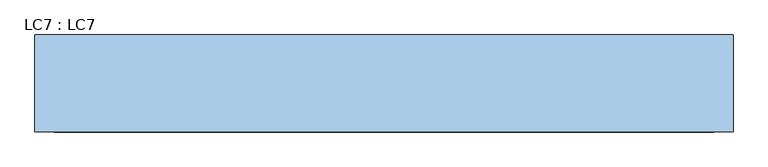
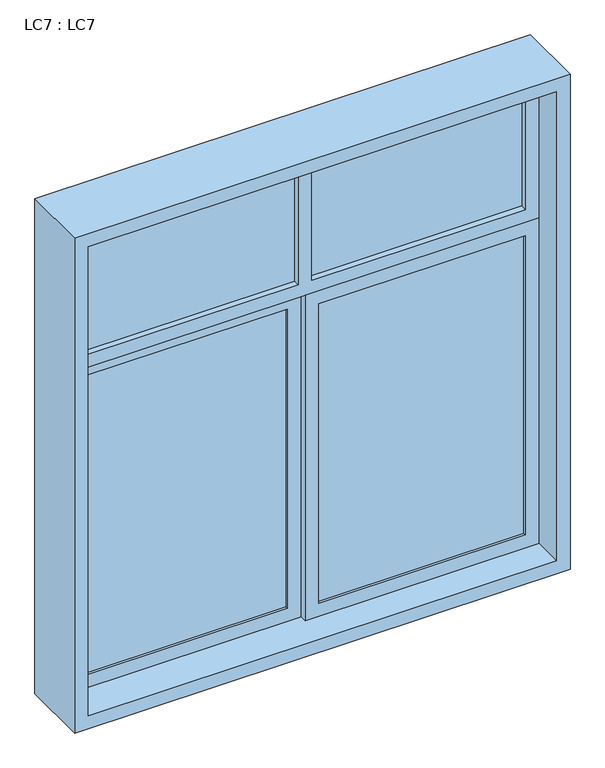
"""IFC4 building model written with IfcOpenShell, lengths in millimetres: window geometry, LC7 : LC7."""

from ifc_helpers import new_model, si_unit, frame, origin, place, context, project, spatial, polyline, outline, extrude, source, transform, mapped, element, save


def lc7_lc7_e78a5a98(model_context):
    return source(origin(), model_context, "Body", "SweptSolid", [
        extrude(outline(polyline([(800.0, -10.0304494), (800.0, -15.0304494), (50.0, -15.0304494), (50.0, -10.0304494), (800.0, -10.0304494)])), frame((0.0, 0.0, 1600.0), z_axis=(0.0, 0.0, 1.0), x_axis=(1.0, 0.0, 0.0)), (0.0, 0.0, 1.0), 1150.0),
        extrude(outline(polyline([(-50.0, 14.9391013), (-50.0, 9.9695506), (-800.0, 9.9695506), (-800.0, 14.9391013), (-50.0, 14.9391013)])), frame((0.0, 0.0, 1600.0), z_axis=(0.0, 0.0, 1.0), x_axis=(1.0, 0.0, 0.0)), (0.0, 0.0, 1.0), 1150.0),
        extrude(outline(polyline([(-25.0, 2.5), (-25.0, -2.5), (-800.0, -2.5), (-800.0, 2.5), (-25.0, 2.5)])), frame((0.0, 0.0, 2850.0), z_axis=(0.0, 0.0, 1.0), x_axis=(1.0, 0.0, 0.0)), (0.0, 0.0, 1.0), 450.0),
        extrude(outline(polyline([(800.0, 2.5), (800.0, -2.5), (25.0, -2.5), (25.0, 2.5), (800.0, 2.5)])), frame((0.0, 0.0, 2850.0), z_axis=(0.0, 0.0, 1.0), x_axis=(1.0, 0.0, 0.0)), (0.0, 0.0, 1.0), 450.0),
        extrude(outline(polyline([(2800.0, 850.0), (2800.0, 0.0), (1550.0, 0.0), (1550.0, 850.0), (2800.0, 850.0)]), holes=[polyline([(2750.0, 800.0), (1600.0, 800.0), (1600.0, 50.0), (2750.0, 50.0), (2750.0, 800.0)])]), frame((0.0, -25.0, 0.0), z_axis=(0.0, 1.0, 0.0), x_axis=(0.0, 0.0, 1.0)), (0.0, 0.0, 1.0), 24.9695506),
        extrude(outline(polyline([(2800.0, 0.0), (2800.0, -850.0), (1550.0, -850.0), (1550.0, 0.0), (2800.0, 0.0)]), holes=[polyline([(2750.0, -50.0), (1600.0, -50.0), (1600.0, -800.0), (2750.0, -800.0), (2750.0, -50.0)])]), frame((0.0, 0.0, 0.0), z_axis=(0.0, 1.0, 0.0), x_axis=(0.0, 0.0, 1.0)), (0.0, 0.0, 1.0), 24.9391013),
        extrude(outline(polyline([(3350.0, 850.0), (3350.0, -850.0), (2800.0, -850.0), (2800.0, 1.4599267), (2800.0, 850.0), (3350.0, 850.0)]), holes=[polyline([(3300.0, -25.0), (2850.0, -25.0), (2850.0, -800.0), (3300.0, -800.0), (3300.0, -25.0)]), polyline([(3300.0, 800.0), (2850.0, 800.0), (2850.0, 25.0), (3300.0, 25.0), (3300.0, 800.0)])]), frame((0.0, -25.0, 0.0), z_axis=(0.0, 1.0, 0.0), x_axis=(0.0, 0.0, 1.0)), (0.0, 0.0, 1.0), 100.0),
        extrude(outline(polyline([(3400.0, 900.0), (3400.0, -900.0), (1500.0, -900.0), (1500.0, 900.0), (3400.0, 900.0)]), holes=[polyline([(3350.0, 850.0), (1550.0, 850.0), (1550.0, -850.0), (3350.0, -850.0), (3350.0, 850.0)])]), frame((0.0, -133.6988661, 0.0), z_axis=(0.0, 1.0, 0.0), x_axis=(0.0, 0.0, 1.0)), (0.0, 0.0, 1.0), 250.0),
    ])


if __name__ == "__main__":
    model = new_model("IFC4")
    model_context = context("Model", 3, world=origin())
    ifc_project = project(units=[si_unit("LENGTHUNIT", "METRE", prefix="MILLI")], contexts=[model_context])
    site = spatial("IfcSite", under=ifc_project)
    building = spatial("IfcBuilding", under=site)
    placement = place(None, origin())
    lc7_lc7_shape = lc7_lc7_e78a5a98(model_context)
    element("IfcWindow", 1, ObjectType="LC7 : LC7", at=placement, inside=building, context=model_context, shape_type="MappedRepresentation", body=[
        mapped(lc7_lc7_shape, transform((0.0, 0.0, 0.0), x_axis=(1.0, 0.0, 0.0), y_axis=(0.0, 1.0, 0.0), z_axis=(0.0, 0.0, 1.0))),
    ])
    save(model, "model.ifc")
